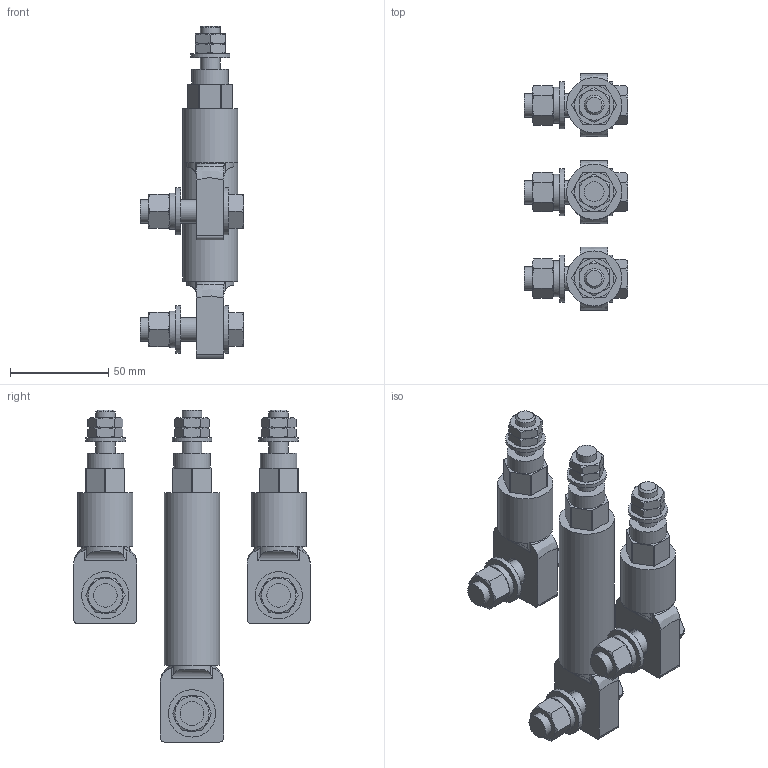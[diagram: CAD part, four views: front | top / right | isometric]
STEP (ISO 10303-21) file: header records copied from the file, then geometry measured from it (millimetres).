
FILE_DESCRIPTION(/* description */ (''),/* implementation_level */ '2;1');
FILE_NAME(/* name */ '_model1.stp',/* time_stamp */ '2023-04-07T08:50:43+08:00',/* author */ (''),/* organization */ (''),/* preprocessor_version */ 'ST-DEVELOPER v16.7',/* originating_system */ 'SIEMENS PLM Software NX 12.0',/* authorisation */ '');
FILE_SCHEMA (('AUTOMOTIVE_DESIGN { 1 0 10303 214 3 1 1 1 }'));
Length unit declared in the file: millimetre
Products named in the file (1): _model1
Bounding box: 52.5 x 120 x 168.6 mm (x, y, z)
Volume: 191245.4 mm3; surface area: 71705.8 mm2
Topology: 3 solids, 3 shells, 425 faces, 991 edges, 623 vertices
Faces by surface type: plane 186, cone 128, cylinder 99, torus 6, bspline 6
Full cylindrical faces by diameter (mm): 10 x6, 10.5 x3, 12 x6, 13 x6, 18.6 x6, 20 x3, 24 x9, 24.5 x3, 26 x3, 28 x3
Entity records: 12210 total; most frequent: CARTESIAN_POINT 3316, ORIENTED_EDGE 1810, DIRECTION 1726, EDGE_CURVE 905, AXIS2_PLACEMENT_3D 719, VERTEX_POINT 587, EDGE_LOOP 532, ADVANCED_FACE 425
